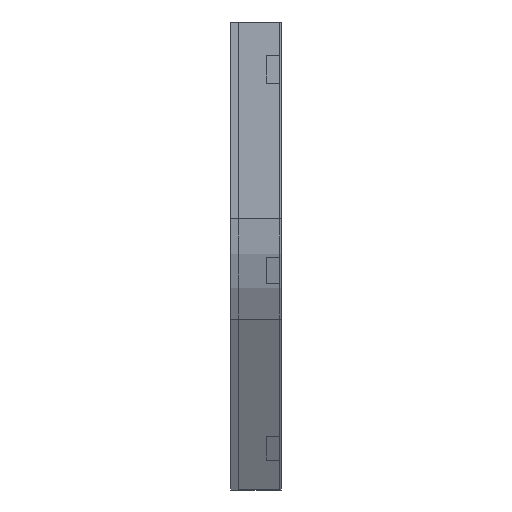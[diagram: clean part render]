
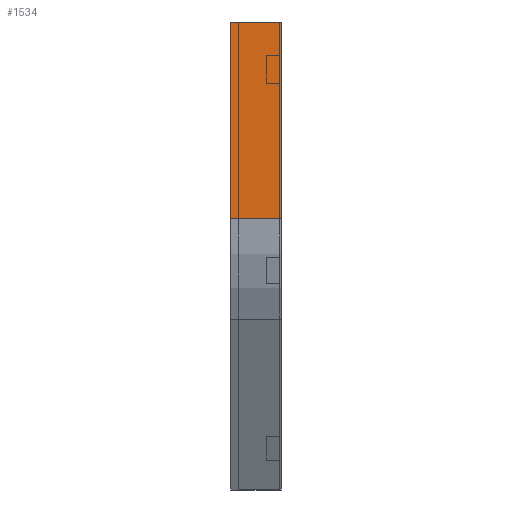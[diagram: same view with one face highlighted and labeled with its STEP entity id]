
A CAD part, left-side view. The second image highlights one B-rep face of the part: STEP entity #1534.
In plain terms, the highlighted planar face has unit normal (-1, 0, 0).
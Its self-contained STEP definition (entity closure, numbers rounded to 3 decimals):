
#63 = EDGE_LOOP ( 'NONE', ( #1778, #1460, #384, #836 ) ) ;
#136 = LINE ( 'NONE', #1435, #854 ) ;
#360 = VERTEX_POINT ( 'NONE', #1615 ) ;
#384 = ORIENTED_EDGE ( 'NONE', *, *, #1069, .T. ) ;
#414 = LINE ( 'NONE', #589, #703 ) ;
#534 = AXIS2_PLACEMENT_3D ( 'NONE', #1342, #1639, #1174 ) ;
#589 = CARTESIAN_POINT ( 'NONE',  ( 0., 0., 0. ) ) ;
#672 = VERTEX_POINT ( 'NONE', #940 ) ;
#703 = VECTOR ( 'NONE', #1251, 1000. ) ;
#791 = PLANE ( 'NONE',  #534 ) ;
#805 = LINE ( 'NONE', #1357, #1145 ) ;
#836 = ORIENTED_EDGE ( 'NONE', *, *, #1825, .T. ) ;
#844 = DIRECTION ( 'NONE',  ( 0., 0., -1. ) ) ;
#854 = VECTOR ( 'NONE', #1556, 1000. ) ;
#940 = CARTESIAN_POINT ( 'NONE',  ( 0., 75., -291.154 ) ) ;
#1042 = VECTOR ( 'NONE', #844, 1000. ) ;
#1069 = EDGE_CURVE ( 'NONE', #1820, #672, #805, .T. ) ;
#1086 = FACE_OUTER_BOUND ( 'NONE', #63, .T. ) ;
#1091 = EDGE_CURVE ( 'NONE', #1820, #1693, #414, .T. ) ;
#1145 = VECTOR ( 'NONE', #1795, 1000. ) ;
#1174 = DIRECTION ( 'NONE',  ( 0., 0., -1. ) ) ;
#1231 = CARTESIAN_POINT ( 'NONE',  ( 0., 0., 0. ) ) ;
#1251 = DIRECTION ( 'NONE',  ( 0., -1., 0. ) ) ;
#1342 = CARTESIAN_POINT ( 'NONE',  ( 0., 0., 0. ) ) ;
#1357 = CARTESIAN_POINT ( 'NONE',  ( 0., 75., 0. ) ) ;
#1370 = LINE ( 'NONE', #1231, #1042 ) ;
#1435 = CARTESIAN_POINT ( 'NONE',  ( 0., 0., -291.154 ) ) ;
#1460 = ORIENTED_EDGE ( 'NONE', *, *, #1091, .F. ) ;
#1534 = ADVANCED_FACE ( 'NONE', ( #1086 ), #791, .F. ) ;
#1556 = DIRECTION ( 'NONE',  ( 0., -1., 0. ) ) ;
#1615 = CARTESIAN_POINT ( 'NONE',  ( 0., 0., -291.154 ) ) ;
#1639 = DIRECTION ( 'NONE',  ( 1., 0., 0. ) ) ;
#1691 = EDGE_CURVE ( 'NONE', #1693, #360, #1370, .T. ) ;
#1693 = VERTEX_POINT ( 'NONE', #1821 ) ;
#1702 = CARTESIAN_POINT ( 'NONE',  ( 0., 75., 0. ) ) ;
#1778 = ORIENTED_EDGE ( 'NONE', *, *, #1691, .F. ) ;
#1795 = DIRECTION ( 'NONE',  ( 0., 0., -1. ) ) ;
#1820 = VERTEX_POINT ( 'NONE', #1702 ) ;
#1821 = CARTESIAN_POINT ( 'NONE',  ( 0., 0., 0. ) ) ;
#1825 = EDGE_CURVE ( 'NONE', #672, #360, #136, .T. ) ;
